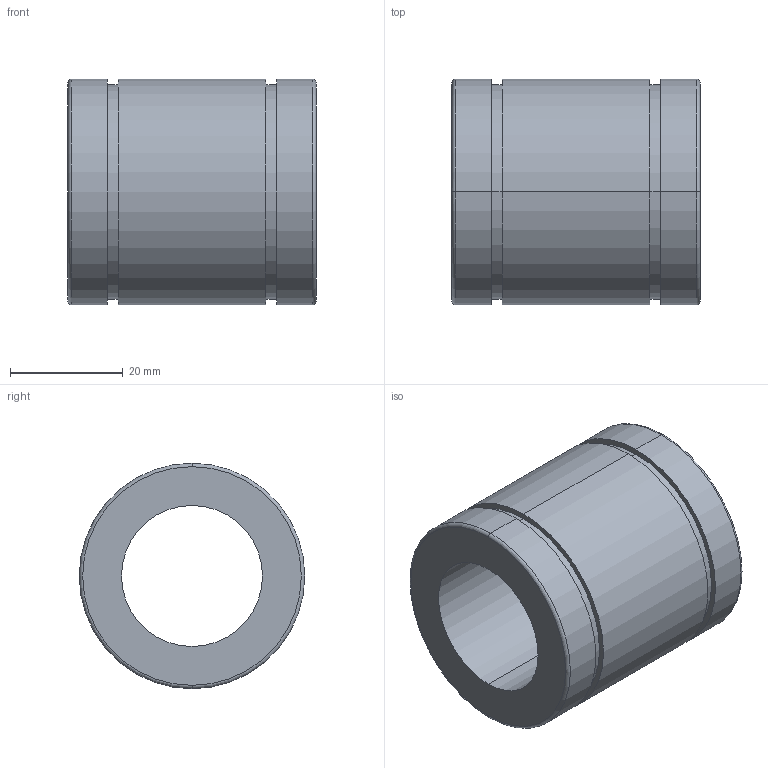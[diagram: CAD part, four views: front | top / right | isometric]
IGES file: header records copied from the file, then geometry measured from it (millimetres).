
Start section: 3D InterOp IGES (Version 21 0 1), Spatial Corp. Copyright (c) 1999-2007.
Global section: file name: N-25VS.igs; native system: Spatial Corp.; preprocessor: 3D InterOp GENERIC/IGES 3.0; author: Noname; organization: Noname; date: 20220311.154114; units: millimetre
Bounding box: 44 x 40 x 40 mm (x, y, z)
Surface area: 10917.7 mm2 (no closed solid volume)
Topology: 0 solids, 0 shells, 22 faces, 88 edges, 88 vertices
Faces by surface type: revolution 16, extrusion 6
